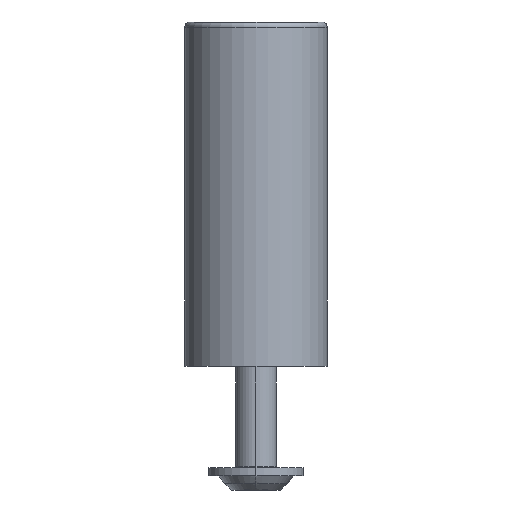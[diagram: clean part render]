
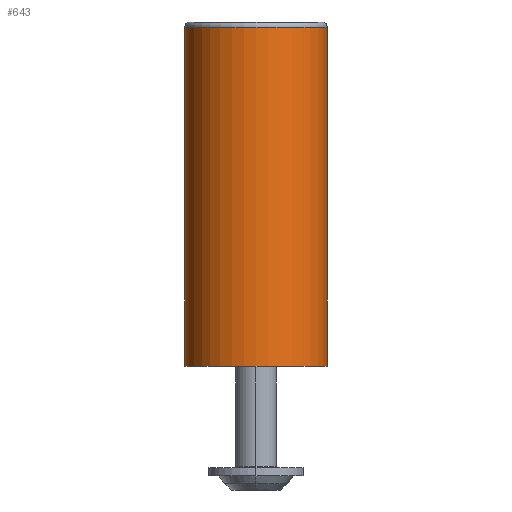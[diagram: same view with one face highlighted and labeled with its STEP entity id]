
A CAD part, left-side view. The second image highlights one B-rep face of the part: STEP entity #643.
In plain terms, the highlighted cylindrical face has radius 7 mm (diameter 14 mm), a partial arc.
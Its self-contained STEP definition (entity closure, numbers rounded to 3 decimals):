
#16=CARTESIAN_POINT('',(-80.,0.,0.));
#17=DIRECTION('',(0.,0.,1.));
#18=DIRECTION('',(0.,1.,0.));
#19=AXIS2_PLACEMENT_3D('',#16,#17,#18);
#68=DIRECTION('',(0.,0.,1.));
#69=VECTOR('',#68,7.362);
#70=CARTESIAN_POINT('',(-80.,-7.,26.));
#71=LINE('',#70,#69);
#177=DIRECTION('',(0.,0.,1.));
#178=VECTOR('',#177,26.);
#179=CARTESIAN_POINT('',(-80.,-7.,0.));
#180=LINE('',#179,#178);
#181=DIRECTION('',(0.,0.,-1.));
#182=VECTOR('',#181,26.);
#183=CARTESIAN_POINT('',(-80.,7.,26.));
#184=LINE('',#183,#182);
#185=DIRECTION('',(0.,0.,1.));
#186=VECTOR('',#185,7.362);
#187=CARTESIAN_POINT('',(-80.,7.,26.));
#188=LINE('',#187,#186);
#189=CARTESIAN_POINT('',(-80.,0.,33.362));
#190=DIRECTION('',(0.,0.,-1.));
#191=DIRECTION('',(0.,-1.,0.));
#192=AXIS2_PLACEMENT_3D('',#189,#190,#191);
#333=CARTESIAN_POINT('',(-80.,7.,0.));
#334=CARTESIAN_POINT('',(-80.,-7.,0.));
#335=VERTEX_POINT('',#333);
#336=VERTEX_POINT('',#334);
#338=CARTESIAN_POINT('',(-80.,7.,26.));
#340=VERTEX_POINT('',#338);
#343=CARTESIAN_POINT('',(-80.,-7.,26.));
#344=VERTEX_POINT('',#343);
#357=CARTESIAN_POINT('',(-80.,-7.,33.362));
#358=CARTESIAN_POINT('',(-80.,7.,33.362));
#359=VERTEX_POINT('',#357);
#360=VERTEX_POINT('',#358);
#628=CARTESIAN_POINT('',(-80.,0.,0.));
#629=DIRECTION('',(0.,0.,1.));
#630=DIRECTION('',(1.,0.,0.));
#631=AXIS2_PLACEMENT_3D('',#628,#629,#630);
#632=CYLINDRICAL_SURFACE('',#631,7.);
#634=ORIENTED_EDGE('',*,*,#633,.F.);
#635=ORIENTED_EDGE('',*,*,#430,.F.);
#637=ORIENTED_EDGE('',*,*,#636,.F.);
#638=ORIENTED_EDGE('',*,*,#540,.T.);
#639=ORIENTED_EDGE('',*,*,#619,.F.);
#640=ORIENTED_EDGE('',*,*,#480,.F.);
#641=EDGE_LOOP('',(#634,#635,#637,#638,#639,#640));
#642=FACE_OUTER_BOUND('',#641,.F.);
#643=ADVANCED_FACE('',(#642),#632,.T.);
#20=CIRCLE('',#19,7.);
#193=CIRCLE('',#192,7.);
#430=EDGE_CURVE('',#335,#336,#20,.T.);
#480=EDGE_CURVE('',#344,#359,#71,.T.);
#540=EDGE_CURVE('',#340,#360,#188,.T.);
#619=EDGE_CURVE('',#359,#360,#193,.T.);
#633=EDGE_CURVE('',#336,#344,#180,.T.);
#636=EDGE_CURVE('',#340,#335,#184,.T.);
